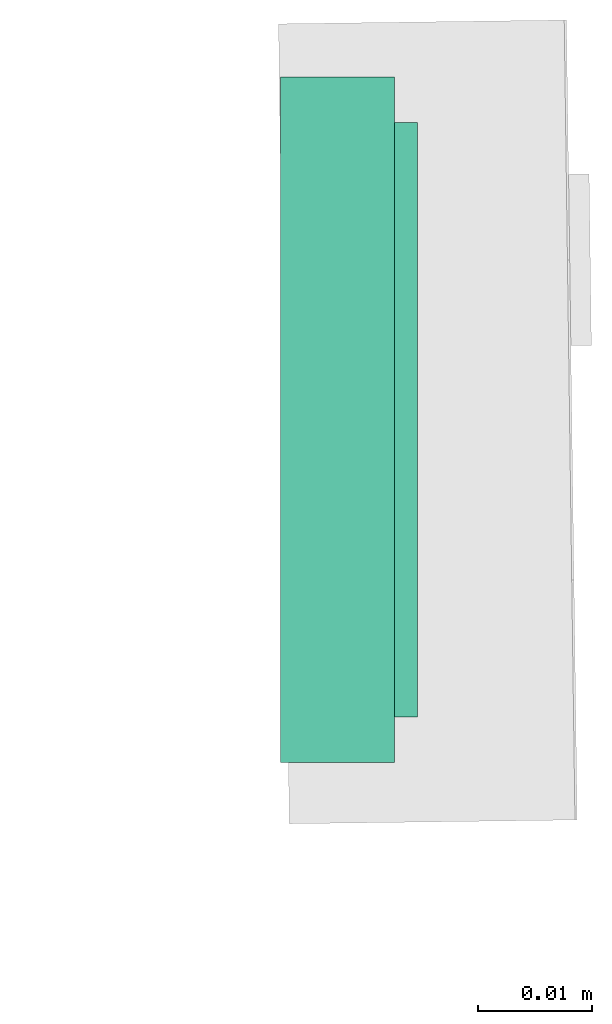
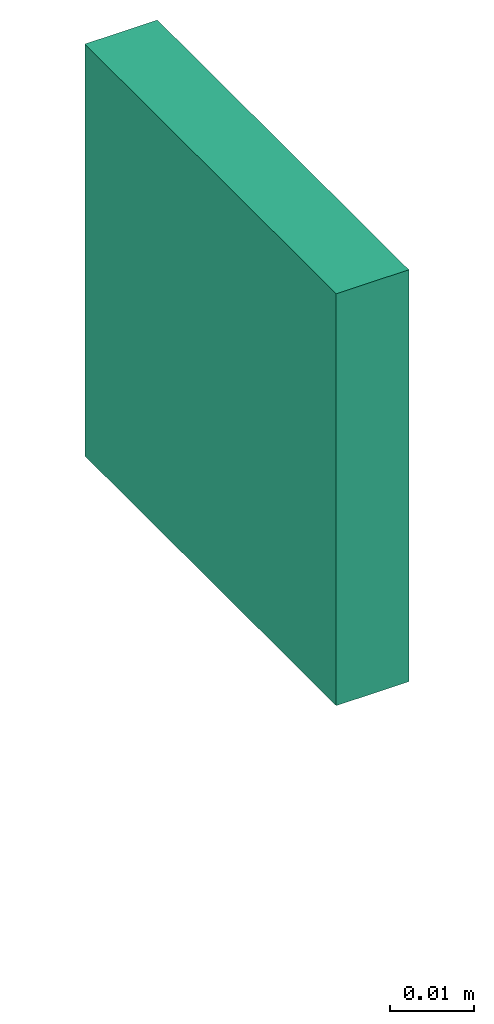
# One storey, part 5 of 5: 1 flow controller.
"""IFC2X3 building model written with IfcOpenShell, lengths in millimetres."""

from ifc_helpers import new_model, entity, si_unit, converted_unit, derived_unit, direction, frame, origin_with_axes, place, context, subcontext, project, spatial, open_shell, surface_model, source, transform, mapped, type_object, element, save


model = new_model("IFC2X3")

# Units and contexts
model_context = context("Model", 3, precision=0.01, world=frame((0.0, 4.29681676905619e-09, 0.0)), true_north=direction((4.01073788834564e-13, 1.0)))
plan_context = context("Plan", 3, precision=0.01, world=frame((0.0, 4.29681676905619e-09, 0.0)), true_north=direction((4.01073788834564e-13, 1.0)))
body_context = subcontext(model_context, "Body", "Model", "MODEL_VIEW")
ifc_project = project(units=[converted_unit("PLANEANGLEUNIT", "DEGREE", entity("IfcPositiveLengthMeasure", 0.0174532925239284), si_unit("PLANEANGLEUNIT", "RADIAN"), dimensions=[0, 0, 0, 0, 0, 0, 0]), si_unit("AREAUNIT", "SQUARE_METRE"), si_unit("LENGTHUNIT", "METRE", prefix="MILLI"), si_unit("MASSUNIT", "GRAM", prefix="KILO"), si_unit("POWERUNIT", "WATT"), si_unit("PRESSUREUNIT", "PASCAL"), si_unit("FORCEUNIT", "NEWTON", prefix="KILO"), si_unit("ELECTRICVOLTAGEUNIT", "VOLT"), si_unit("ELECTRICCURRENTUNIT", "AMPERE"), si_unit("THERMODYNAMICTEMPERATUREUNIT", "DEGREE_CELSIUS"), si_unit("TIMEUNIT", "SECOND"), si_unit("VOLUMEUNIT", "CUBIC_METRE"), derived_unit("LINEARVELOCITYUNIT", [(si_unit("LENGTHUNIT", "METRE"), 1), (si_unit("TIMEUNIT", "SECOND"), -1)]), derived_unit("VOLUMETRICFLOWRATEUNIT", [(si_unit("VOLUMEUNIT", "CUBIC_METRE"), 1), (si_unit("TIMEUNIT", "SECOND"), -1)]), derived_unit("THERMALTRANSMITTANCEUNIT", [(si_unit("POWERUNIT", "WATT"), 1), (si_unit("THERMODYNAMICTEMPERATUREUNIT", "KELVIN"), -1), (si_unit("AREAUNIT", "SQUARE_METRE"), -1)]), derived_unit("SOUNDPRESSUREUNIT", [(si_unit("PRESSUREUNIT", "PASCAL"), 1)])], contexts=[model_context, plan_context])

# Site, building, storey
site_placement = place(None, frame((0.0, -4.29681676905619e-09, 0.0), z_axis=(0.0, 0.0, 1.0), x_axis=(1.0, 0.0, 0.0)))
site = spatial("IfcSite", under=ifc_project, at=site_placement, Name="ENGM", CompositionType="ELEMENT")
building_placement = place(site_placement, frame((0.0, 4.29681676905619e-09, 0.0), z_axis=(0.0, 0.0, 1.0), x_axis=(1.0, 0.0, 0.0)))
building = spatial("IfcBuilding", under=site, at=building_placement, Name="TS", CompositionType="ELEMENT")
storey_placement = place(building_placement, frame((0.0, 0.0, 210900.0), z_axis=(0.0, 0.0, 1.0), x_axis=(1.0, 0.0, 0.0)))
storey = spatial("IfcBuildingStorey", under=building, at=storey_placement, Name="Nivå F", CompositionType="ELEMENT", Elevation=210900.0)

# Flow controller
switching_device_type = type_object("IfcSwitchingDeviceType", Name="Åpneknapp", PredefinedType="NOTDEFINED")
shared_shape = source(origin_with_axes(), body_context, "Body", "SurfaceModel", [
    surface_model("IfcShellBasedSurfaceModel", [(-30.0, 10.0, 30.0), (-30.0, 0.0, 30.0), (30.0, 0.0, 30.0), (30.0, 10.0, 30.0), (30.0, 10.0, -30.0), (30.0, 0.0, -30.0), (-30.0, 0.0, -30.0), (-30.0, 10.0, -30.0), (-26.0, 12.0, 26.0), (-26.0, 10.0, 26.0), (26.0, 12.0, 26.0), (26.0, 10.0, 26.0), (26.0, 12.0, -26.0), (26.0, 10.0, -26.0), (-26.0, 12.0, -26.0), (-26.0, 10.0, -26.0)], [open_shell([[[0, 1, 2]], [[2, 3, 0]], [[4, 5, 6]], [[6, 7, 4]], [[2, 1, 6]], [[6, 5, 2]], [[3, 2, 5]], [[5, 4, 3]], [[0, 3, 4]], [[4, 7, 0]], [[1, 0, 7]], [[7, 6, 1]], [[8, 9, 10]], [[11, 10, 9]], [[12, 13, 14]], [[15, 14, 13]], [[11, 9, 15]], [[15, 13, 11]], [[10, 11, 12]], [[13, 12, 11]], [[8, 10, 12]], [[12, 14, 8]], [[9, 8, 15]], [[14, 15, 8]]])]),
])
flow_controller_placement = place(storey_placement, frame((534789.00712, 461589.65652, 1400.0), z_axis=(0.0, 0.0, 1.0), x_axis=(0.0, -1.0, 0.0)))
element("IfcFlowController", 1, at=flow_controller_placement, inside=storey, type_object=switching_device_type, Name="Åpneknapp", context=body_context, shape_type="MappedRepresentation", body=[
    mapped(shared_shape, transform((0.0, 0.0, 0.0), scale=1.0)),
])

save(model, "model.ifc")
